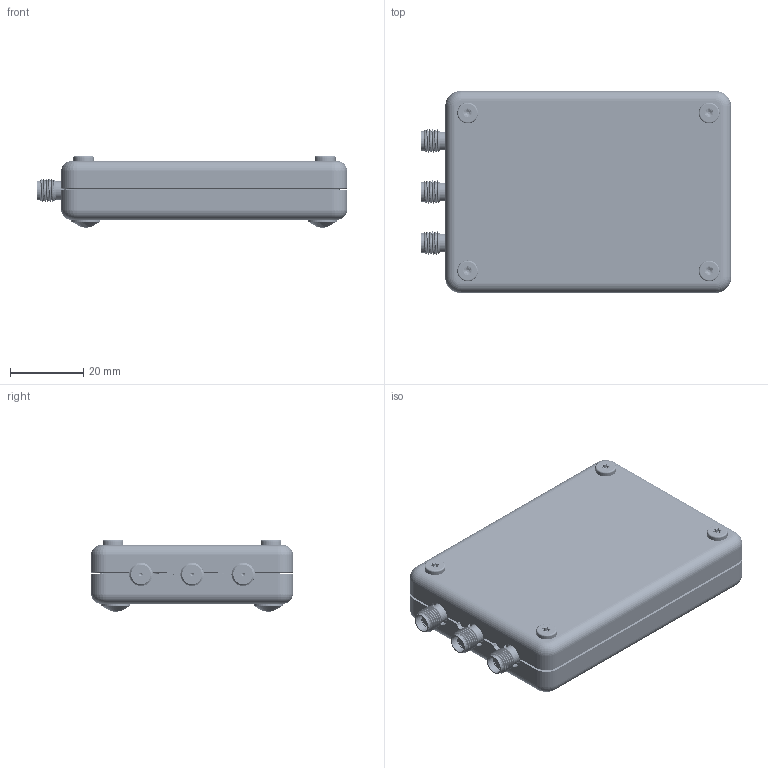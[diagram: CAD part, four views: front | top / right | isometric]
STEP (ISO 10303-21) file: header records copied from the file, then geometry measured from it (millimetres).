
FILE_DESCRIPTION(('Creo Elements/Direct Modeling STEP Export'),'2;1');
FILE_NAME('cu_usrp_b206mini-i.stp','2025-07-16T12:31:28',(''),(''),'Creo Elements/Direct Modeling STEP processor for AP214 (Solid Model)','Creo Elements/Direct Modeling 20.6 25-Mar-2023 (C) Parametric Technology GmbH','');
FILE_SCHEMA(('AUTOMOTIVE_DESIGN { 1 0 10303 214 1 1 1 1 }'));
Length unit declared in the file: millimetre
Products named in the file (149): wavespring_.194id_.242od_.030h-0.8lbs-15mils_MEI.2; R56; C62; R57; C71; R58; R60; R61; R65; C66; C69; 612668_01_10_0201_RES; C138; R29; R31; R81; R79; 612669_01_12_0201_RES; R83; C140; 612670_01_10_0201_RES; 717204_01_12_0201_CAP; 716039_01_39_0603_CAP; C264; 612671_01_10_0201_RES; 717310_01_16_0201_CAP; 716963_01_22_402L10_SMD25_Rev1; China_RoHS_40; 717612_01_59_C0805_Rev2; UKCA; NI_LOGO_Small; 714199_01_12_0201L6_SMD25_Rev1; 612669_01_12_R_2_0201_PKO_Rev1; CE_LOGO; 716701_01_12_0201_CAP; LABEL_2D_LASER_SMALL; WARNING_ESD_STATIC; 712567_01_20_R_2_0603_PKO_Rev1; WEEELOGO_SM; VENDOR_MARKING_Rev2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
Assembly tree (531 placements, depth 6):
  B206mini-i_USRP_enclosure-assy
    screw-M3x14mmL-T8-low-wafer-head-blk-oxide.2.1  x4
    foot_adh-Blk-.312inDia-.1  x4
    wavespring_.194id_.242od_.030h-0.8lbs-15mils_MEI.2  x4
    thermal-pad-RFTrnscvr_USB-Cntrl-.41x.41x.04-Ettus-B200i-grade_GP7100-H1
-tennmax  x2
    thermal-pad-FPGA-.76x.76x.04-Ettus-B200i-grade_GP7100-H1-tennmax
    thermal-pad-Amp-sot89-.18x.18x.04-Ettus-B200i-grade_GP7100-H1-tennmax
    thermal-insertUSRP-B206mini.01
    top-plateUSRP_B206mini-i.01
      PEM_custom_M2x0pt4_B200
      top-plateUSRP-B206mini
        standoff-unthreaded-8mmL_SO-43.1-8ZI.1  x4
        top_plateUSRP-B206mini
    bottom-plateUSRP-B206mini.01
      standoff-M3_6.35mmL-thru_DSO-M3-6.35ZI  x4
      bottom_plateUSRP-B206mini
    cca-usrp-B206mini-i-1x1-70MHz-6GHZ.01
      conn-SMA-jack-edge-straddleMnt-Pcb_Cinch_142-0761-871  x3
      CONN_USB-C_TOPMOUNT_SMT_FOXCON_771211-01
        SECOND_IM_ASM_25_ASM_ASM_11_ASM.ASM
          _SECOND_IM_ASM_25_ASM_ASM_11_AS.PRT
          MAIN-SHELL_1009_31.PRT
          SECOND_HOUSING_NEW_12_1.ASM
            SECOND_HOUSING_NEW_12_1_3.PRT
            SECOND_HOUSING_NEW_12_1_2.PRT
            SECOND_HOUSING_NEW_12_1_1.PRT
      switch-side-push_mid-mnt_SKSNLAE010_Alps
      conn-sm-ra-12pos-1.25pitch_TE-conn_1-1734261-2.2.1  x2
      pcb-117436A-01usrpB206
      idf-B206_mini-i_usrp1x1-70mhz-6ghz
        117436b.pcb
          PARTS
            C264  x12
            716039_01_39_0603_CAP  x8
            716900_01_55_C0805_Rev2  x3
            611063_01_22_R_2_0603_PKO_Rev1
            C66  x28
            R31  x7
            R61  x5
            C69  x17
            C71  x121
            714490_01_11_0201_RES  x4
            712622_01_16_402L10_SMD25_Rev1  x7
            C140  x7
            R24  x2
            R35
            C62  x23
            U31  x5
            R33
            C138  x4
            R30  x2
            U29
            R29  x2
            U9  x2
            U28
            R60  x3
            R9
            R28  x5
            U27  x4
            C32  x5
Bounding box: 84.82 x 55.19 x 19.54 mm (x, y, z)
Volume: 38043.9 mm3; surface area: 54247.3 mm2
Topology: 518 solids, 532 shells, 7333 faces, 18858 edges, 12963 vertices
Faces by surface type: plane 5495, cylinder 1466, cone 181, bspline 103, torus 48, extrusion 22, sphere 10, revolution 8
Entity records: 171388 total; most frequent: CARTESIAN_POINT 45932, ORIENTED_EDGE 22234, DIRECTION 19570, EDGE_CURVE 11117, VECTOR 8546, LINE 8530, VERTEX_POINT 7855, AXIS2_PLACEMENT_3D 5511
